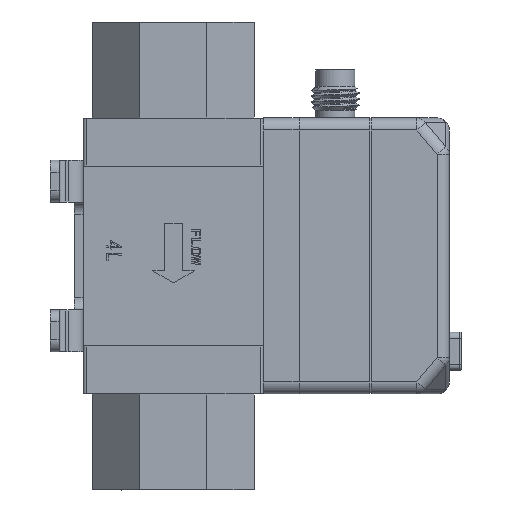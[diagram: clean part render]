
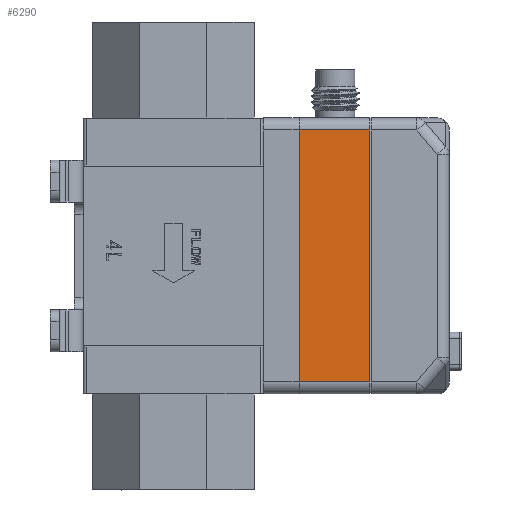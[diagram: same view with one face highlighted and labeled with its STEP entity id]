
A CAD part, left-side view. The second image highlights one B-rep face of the part: STEP entity #6290.
In plain terms, the highlighted planar face has unit normal (-1, 0, 0).
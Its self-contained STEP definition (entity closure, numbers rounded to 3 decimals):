
#4374=PLANE('',#30767);
#6290=ADVANCED_FACE('',(#7859),#4374,.T.);
#7859=FACE_OUTER_BOUND('',#9507,.T.);
#9507=EDGE_LOOP('',(#17255,#17256,#17257,#17258));
#17255=ORIENTED_EDGE('',*,*,#23730,.F.);
#17256=ORIENTED_EDGE('',*,*,#23731,.T.);
#17257=ORIENTED_EDGE('',*,*,#23715,.T.);
#17258=ORIENTED_EDGE('',*,*,#23706,.F.);
#20298=VERTEX_POINT('',#54397);
#20299=VERTEX_POINT('',#54399);
#20307=VERTEX_POINT('',#54422);
#20315=VERTEX_POINT('',#54450);
#23706=EDGE_CURVE('',#20298,#20299,#26289,.T.);
#23715=EDGE_CURVE('',#20307,#20299,#26290,.T.);
#23730=EDGE_CURVE('',#20315,#20298,#26300,.T.);
#23731=EDGE_CURVE('',#20315,#20307,#26301,.T.);
#26289=LINE('',#54398,#28915);
#26290=LINE('',#54421,#28916);
#26300=LINE('',#54451,#28926);
#26301=LINE('',#54453,#28927);
#28915=VECTOR('',#36421,1.);
#28916=VECTOR('',#36450,1.);
#28926=VECTOR('',#36482,1.);
#28927=VECTOR('',#36485,1.);
#30767=AXIS2_PLACEMENT_3D('',#54454,#36486,#36487);
#36421=DIRECTION('',(0.,0.,1.));
#36450=DIRECTION('',(0.,1.,0.));
#36482=DIRECTION('',(0.,1.,0.));
#36485=DIRECTION('',(0.,0.,1.));
#36486=DIRECTION('',(-1.,0.,0.));
#36487=DIRECTION('',(0.,0.,-1.));
#54397=CARTESIAN_POINT('',(-20.,-17.,-37.));
#54398=CARTESIAN_POINT('',(-20.,-17.,-37.));
#54399=CARTESIAN_POINT('',(-20.,-17.,5.));
#54421=CARTESIAN_POINT('',(-20.,-27.,5.));
#54422=CARTESIAN_POINT('',(-20.,-28.8,5.));
#54450=CARTESIAN_POINT('',(-20.,-28.8,-37.));
#54451=CARTESIAN_POINT('',(-20.,-27.,-37.));
#54453=CARTESIAN_POINT('',(-20.,-28.8,5.));
#54454=CARTESIAN_POINT('',(-20.,-27.,-37.));
